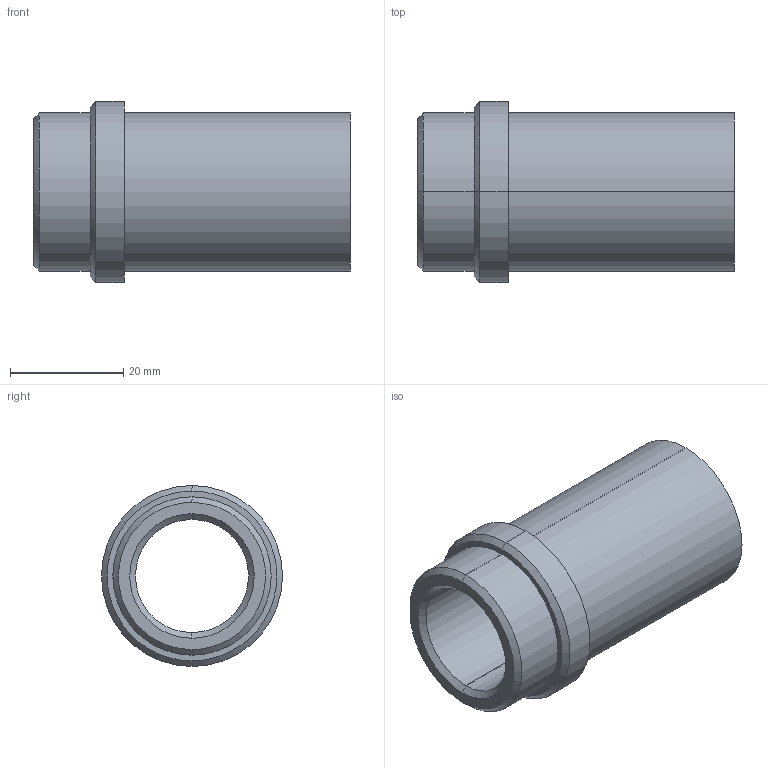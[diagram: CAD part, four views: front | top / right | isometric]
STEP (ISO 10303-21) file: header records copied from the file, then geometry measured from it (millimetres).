
FILE_DESCRIPTION(('CATIA V5 STEP Exchange'),'2;1');
FILE_NAME('C:\Users\Utente\Desktop\IO LAVORO\3D X SITO CF\X SITO\PLASTICA\358\358-20x56.stp','2021-04-08T12:46:02+00:00',('none'),('none'),'CATIA Version 5 Release 20 GA (IN-10)','CATIA V5 STEP AP203','none');
FILE_SCHEMA(('CONFIG_CONTROL_DESIGN'));
Length unit declared in the file: millimetre
Products named in the file (1): 358-20X56
Bounding box: 56 x 32 x 32 mm (x, y, z)
Volume: 17839.2 mm3; surface area: 9299.5 mm2
Topology: 1 solids, 1 shells, 20 faces, 64 edges, 48 vertices
Faces by surface type: cylinder 8, cone 6, plane 4, torus 2
Entity records: 906 total; most frequent: CARTESIAN_POINT 301, ORIENTED_EDGE 128, DIRECTION 92, EDGE_CURVE 64, AXIS2_PLACEMENT_3D 59, VERTEX_POINT 48, CIRCLE 38, EDGE_LOOP 24
